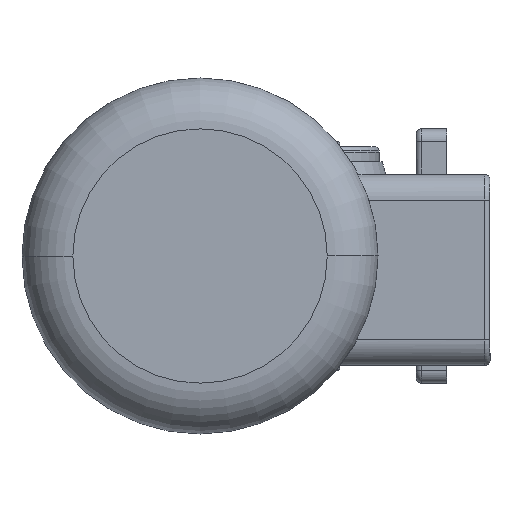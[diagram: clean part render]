
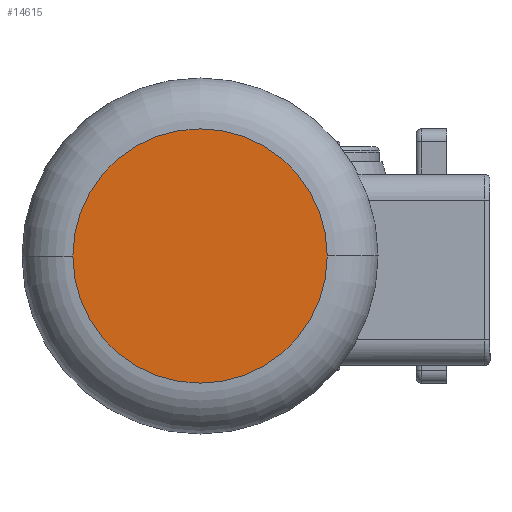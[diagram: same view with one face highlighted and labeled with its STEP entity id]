
A CAD part, left-side view. The second image highlights one B-rep face of the part: STEP entity #14615.
In plain terms, the highlighted planar face has unit normal (-1, 0, 0).
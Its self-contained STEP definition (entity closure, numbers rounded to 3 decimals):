
#1140 = EDGE_LOOP ( 'NONE', ( #12229, #6054 ) ) ;
#2250 = VERTEX_POINT ( 'NONE', #6088 ) ;
#3299 = AXIS2_PLACEMENT_3D ( 'NONE', #11508, #13280, #19812 ) ;
#4844 = CIRCLE ( 'NONE', #8811, 50. ) ;
#4967 = EDGE_CURVE ( 'NONE', #2250, #5664, #10494, .T. ) ;
#5664 = VERTEX_POINT ( 'NONE', #7956 ) ;
#6054 = ORIENTED_EDGE ( 'NONE', *, *, #17616, .T. ) ;
#6088 = CARTESIAN_POINT ( 'NONE',  ( -378.378, -38.988, 0. ) ) ;
#7482 = DIRECTION ( 'NONE',  ( 0., -1., 0. ) ) ;
#7956 = CARTESIAN_POINT ( 'NONE',  ( -378.378, 61.012, 0. ) ) ;
#8811 = AXIS2_PLACEMENT_3D ( 'NONE', #9419, #17786, #11078 ) ;
#9419 = CARTESIAN_POINT ( 'NONE',  ( -378.378, 11.012, 0. ) ) ;
#10494 = CIRCLE ( 'NONE', #3299, 50. ) ;
#10607 = FACE_OUTER_BOUND ( 'NONE', #1140, .T. ) ;
#11078 = DIRECTION ( 'NONE',  ( 0., -1., 0. ) ) ;
#11508 = CARTESIAN_POINT ( 'NONE',  ( -378.378, 11.012, 0. ) ) ;
#12229 = ORIENTED_EDGE ( 'NONE', *, *, #4967, .T. ) ;
#13280 = DIRECTION ( 'NONE',  ( -1., 0., 0. ) ) ;
#13939 = DIRECTION ( 'NONE',  ( 1., 0., 0. ) ) ;
#14615 = ADVANCED_FACE ( 'NONE', ( #10607 ), #15739, .F. ) ;
#15739 = PLANE ( 'NONE',  #17902 ) ;
#17616 = EDGE_CURVE ( 'NONE', #5664, #2250, #4844, .T. ) ;
#17786 = DIRECTION ( 'NONE',  ( -1., 0., 0. ) ) ;
#17902 = AXIS2_PLACEMENT_3D ( 'NONE', #21045, #13939, #7482 ) ;
#19812 = DIRECTION ( 'NONE',  ( 0., -1., 0. ) ) ;
#21045 = CARTESIAN_POINT ( 'NONE',  ( -378.378, 11.012, 0. ) ) ;
